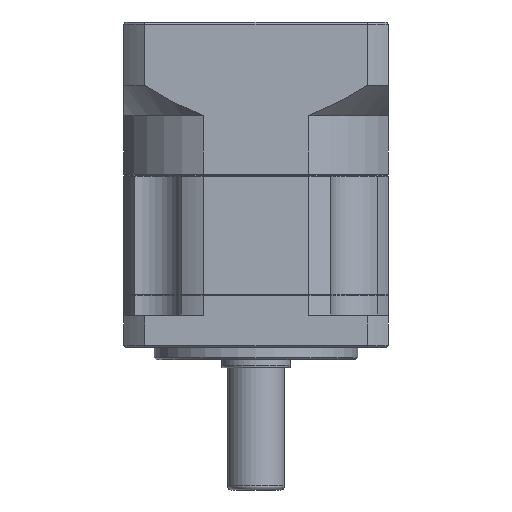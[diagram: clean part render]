
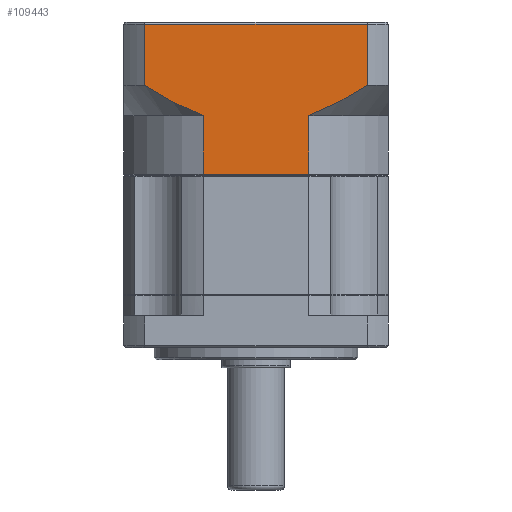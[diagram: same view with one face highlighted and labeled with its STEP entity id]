
A CAD part, front view. The second image highlights one B-rep face of the part: STEP entity #109443.
In plain terms, the highlighted planar face has unit normal (0, -1, 0).
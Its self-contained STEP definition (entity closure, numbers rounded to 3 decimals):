
#1480 = CARTESIAN_POINT ( 'NONE',  ( -54.376, 4.23, -4.245 ) ) ;
#3675 = LINE ( 'NONE', #73123, #65636 ) ;
#4989 = CARTESIAN_POINT ( 'NONE',  ( -55.019, 4.23, -4.006 ) ) ;
#5380 = CARTESIAN_POINT ( 'NONE',  ( -55.657, 4.23, -3.754 ) ) ;
#5604 = CARTESIAN_POINT ( 'NONE',  ( -68.772, 4.23, 18.255 ) ) ;
#6668 = VERTEX_POINT ( 'NONE', #73911 ) ;
#6970 = CARTESIAN_POINT ( 'NONE',  ( -28.395, 4.23, -4.245 ) ) ;
#7955 = CARTESIAN_POINT ( 'NONE',  ( -14., 4.23, 0.755 ) ) ;
#10662 = VERTEX_POINT ( 'NONE', #78308 ) ;
#12035 = DIRECTION ( 'NONE',  ( -1., 0., 0. ) ) ;
#12327 = ORIENTED_EDGE ( 'NONE', *, *, #104478, .F. ) ;
#12566 = ORIENTED_EDGE ( 'NONE', *, *, #84629, .F. ) ;
#14355 = CARTESIAN_POINT ( 'NONE',  ( -28.395, 4.23, -18.656 ) ) ;
#15618 = ORIENTED_EDGE ( 'NONE', *, *, #91013, .F. ) ;
#18109 = VECTOR ( 'NONE', #96994, 1000. ) ;
#19557 = ORIENTED_EDGE ( 'NONE', *, *, #37250, .F. ) ;
#21732 = ORIENTED_EDGE ( 'NONE', *, *, #99635, .T. ) ;
#23629 = CARTESIAN_POINT ( 'NONE',  ( -57.542, 4.23, -2.955 ) ) ;
#32889 = LINE ( 'NONE', #115129, #18109 ) ;
#33120 = CARTESIAN_POINT ( 'NONE',  ( -54.376, 4.23, -4.245 ) ) ;
#36070 = ORIENTED_EDGE ( 'NONE', *, *, #115874, .F. ) ;
#37250 = EDGE_CURVE ( 'NONE', #61416, #6668, #118913, .T. ) ;
#40356 = VERTEX_POINT ( 'NONE', #14355 ) ;
#42562 = VECTOR ( 'NONE', #51103, 1000. ) ;
#43336 = CARTESIAN_POINT ( 'NONE',  ( -56.918, 4.23, -3.228 ) ) ;
#51103 = DIRECTION ( 'NONE',  ( 1., 0., 0. ) ) ;
#51124 = PLANE ( 'NONE',  #83450 ) ;
#53197 = B_SPLINE_CURVE_WITH_KNOTS ( 'NONE', 3,
 ( #33120, #4989, #5380, #43336, #23629, #109655, #53233, #119187, #98637, #108046 ),
 .UNSPECIFIED., .F., .F.,
 ( 4, 2, 2, 2, 4 ),
 ( 0.101, 0.104, 0.106, 0.11, 0.118 ),
 .UNSPECIFIED. ) ;
#53233 = CARTESIAN_POINT ( 'NONE',  ( -60.607, 4.23, -1.5 ) ) ;
#54109 = CARTESIAN_POINT ( 'NONE',  ( -68.772, 4.23, 18.255 ) ) ;
#54780 = CARTESIAN_POINT ( 'NONE',  ( -19.811, 4.23, -0.249 ) ) ;
#55392 = CARTESIAN_POINT ( 'NONE',  ( -28.395, 4.23, -4.245 ) ) ;
#57496 = LINE ( 'NONE', #111303, #91445 ) ;
#60161 = DIRECTION ( 'NONE',  ( 0., 1., 0. ) ) ;
#61416 = VERTEX_POINT ( 'NONE', #73589 ) ;
#61615 = LINE ( 'NONE', #79156, #42562 ) ;
#62238 = VERTEX_POINT ( 'NONE', #92781 ) ;
#63218 = EDGE_CURVE ( 'NONE', #10662, #40356, #61615, .T. ) ;
#63788 = LINE ( 'NONE', #54109, #115548 ) ;
#64209 = CARTESIAN_POINT ( 'NONE',  ( -15.138, 4.23, 2.522 ) ) ;
#65636 = VECTOR ( 'NONE', #110194, 1000. ) ;
#73123 = CARTESIAN_POINT ( 'NONE',  ( -28.395, 4.23, -4.245 ) ) ;
#73589 = CARTESIAN_POINT ( 'NONE',  ( -14., 4.23, 18.255 ) ) ;
#73911 = CARTESIAN_POINT ( 'NONE',  ( -14., 4.23, 3.255 ) ) ;
#78308 = CARTESIAN_POINT ( 'NONE',  ( -54.376, 4.23, -18.656 ) ) ;
#79156 = CARTESIAN_POINT ( 'NONE',  ( -8.886, 4.23, -18.656 ) ) ;
#79211 = B_SPLINE_CURVE_WITH_KNOTS ( 'NONE', 3,
 ( #119519, #64209, #120328, #119924, #54780, #90648, #91045, #6970 ),
 .UNSPECIFIED., .F., .F.,
 ( 4, 2, 2, 4 ),
 ( 0.059, 0.063, 0.067, 0.075 ),
 .UNSPECIFIED. ) ;
#79595 = VERTEX_POINT ( 'NONE', #55392 ) ;
#82313 = ORIENTED_EDGE ( 'NONE', *, *, #86900, .F. ) ;
#83450 = AXIS2_PLACEMENT_3D ( 'NONE', #96928, #60161, #12035 ) ;
#84629 = EDGE_CURVE ( 'NONE', #10662, #88156, #57496, .T. ) ;
#86900 = EDGE_CURVE ( 'NONE', #6668, #79595, #79211, .T. ) ;
#88156 = VERTEX_POINT ( 'NONE', #1480 ) ;
#90648 = CARTESIAN_POINT ( 'NONE',  ( -23.405, 4.23, -2.158 ) ) ;
#91013 = EDGE_CURVE ( 'NONE', #88156, #62238, #53197, .T. ) ;
#91045 = CARTESIAN_POINT ( 'NONE',  ( -25.856, 4.23, -3.302 ) ) ;
#91216 = DIRECTION ( 'NONE',  ( 0., 0., -1. ) ) ;
#91445 = VECTOR ( 'NONE', #122022, 1000. ) ;
#92781 = CARTESIAN_POINT ( 'NONE',  ( -68.772, 4.23, 3.255 ) ) ;
#96497 = VERTEX_POINT ( 'NONE', #5604 ) ;
#96928 = CARTESIAN_POINT ( 'NONE',  ( -8.886, 4.23, 18.755 ) ) ;
#96994 = DIRECTION ( 'NONE',  ( 0., 0., 1. ) ) ;
#97332 = FACE_OUTER_BOUND ( 'NONE', #122072, .T. ) ;
#98637 = CARTESIAN_POINT ( 'NONE',  ( -66.503, 4.23, 1.793 ) ) ;
#99635 = EDGE_CURVE ( 'NONE', #61416, #96497, #63788, .T. ) ;
#104478 = EDGE_CURVE ( 'NONE', #79595, #40356, #3675, .T. ) ;
#108046 = CARTESIAN_POINT ( 'NONE',  ( -68.772, 4.23, 3.255 ) ) ;
#108651 = ORIENTED_EDGE ( 'NONE', *, *, #63218, .T. ) ;
#109443 = ADVANCED_FACE ( 'NONE', ( #97332 ), #51124, .F. ) ;
#109655 = CARTESIAN_POINT ( 'NONE',  ( -59.395, 4.23, -2.105 ) ) ;
#110194 = DIRECTION ( 'NONE',  ( 0., 0., -1. ) ) ;
#111303 = CARTESIAN_POINT ( 'NONE',  ( -54.376, 4.23, -4.245 ) ) ;
#111792 = DIRECTION ( 'NONE',  ( -1., 0., 0. ) ) ;
#115129 = CARTESIAN_POINT ( 'NONE',  ( -68.772, 4.23, 0.755 ) ) ;
#115548 = VECTOR ( 'NONE', #111792, 1000. ) ;
#115874 = EDGE_CURVE ( 'NONE', #62238, #96497, #32889, .T. ) ;
#115948 = VECTOR ( 'NONE', #91216, 1000. ) ;
#118913 = LINE ( 'NONE', #7955, #115948 ) ;
#119187 = CARTESIAN_POINT ( 'NONE',  ( -64.188, 4.23, 0.405 ) ) ;
#119519 = CARTESIAN_POINT ( 'NONE',  ( -14., 4.23, 3.255 ) ) ;
#119924 = CARTESIAN_POINT ( 'NONE',  ( -18.625, 4.23, 0.421 ) ) ;
#120328 = CARTESIAN_POINT ( 'NONE',  ( -16.29, 4.23, 1.806 ) ) ;
#122022 = DIRECTION ( 'NONE',  ( 0., 0., 1. ) ) ;
#122072 = EDGE_LOOP ( 'NONE', ( #19557, #21732, #36070, #15618, #12566, #108651, #12327, #82313 ) ) ;
